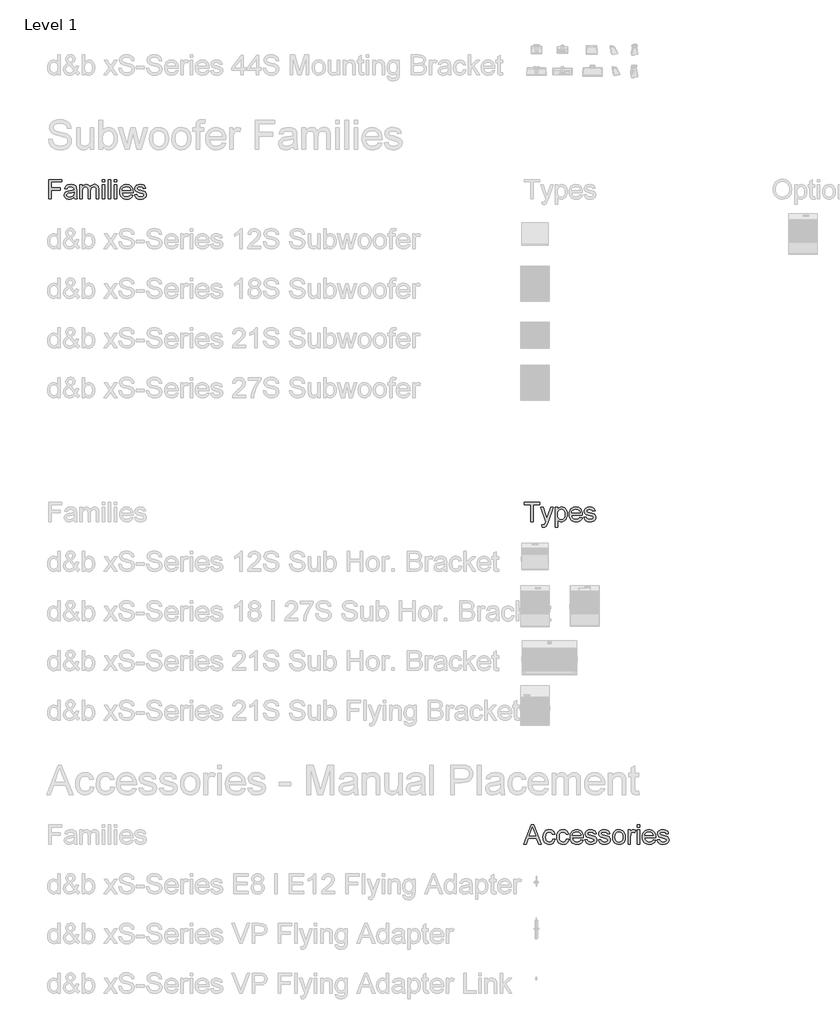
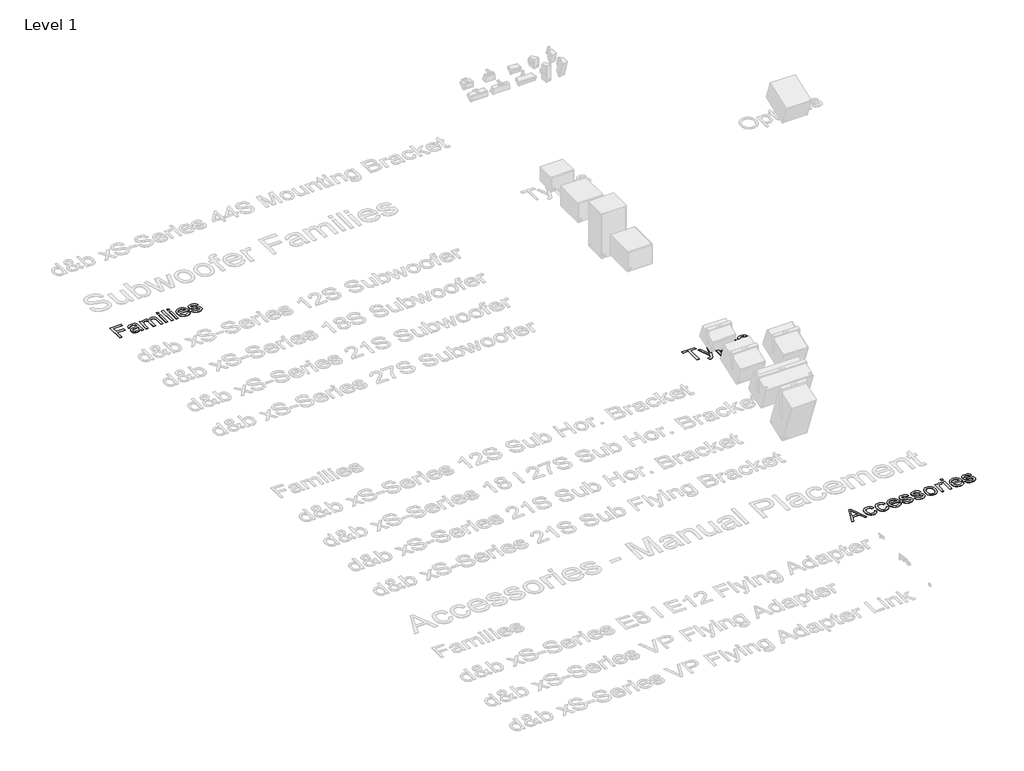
# One storey, part 20 of 55: 3 proxies.
"""IFC4 building model written with IfcOpenShell, lengths in millimetres."""

from ifc_helpers import new_model, si_unit, origin, origin_with_axes, place, context, project, spatial, polyline, outline, extrude, element, save

model = new_model("IFC4")

# Units and contexts
model_context = context("Model", 3, world=origin())
ifc_project = project(units=[si_unit("LENGTHUNIT", "METRE", prefix="MILLI")], contexts=[model_context])

# Site, building, storey
site = spatial("IfcSite", under=ifc_project)
building = spatial("IfcBuilding", under=site)
storey = spatial("IfcBuildingStorey", under=building, Name="Level 1", Elevation=0.0)

# Proxies
placement = place(None, origin())
element("IfcBuildingElementProxy", 1, Name="400mm Arial", ObjectType="400mm Arial", at=placement, inside=storey, context=model_context, shape_type="SweptSolid", body=[
    extrude(outline(polyline([(-11489.4242118, -26148.6945164), (-11333.0463709, -25756.9369407), (-11291.3456133, -25756.9369407), (-11135.0634163, -26148.6945164), (-11186.8067875, -26148.6945164), (-11231.5681512, -26026.270274), (-11393.0151209, -26026.270274), (-11437.7764845, -26148.6945164), (-11489.4242118, -26148.6945164)]), holes=[polyline([(-11375.0340603, -25977.300577), (-11249.4535679, -25977.300577), (-11284.8418254, -25880.9871301), (-11312.291636, -25805.9066376), (-11336.6808406, -25872.5704634), (-11375.0340603, -25977.300577)])]), origin_with_axes(), (0.0, 0.0, 1.0), 5.0),
    extrude(outline(polyline([(-10905.23103, -26044.6339104), (-10856.261333, -26050.7551225), (-10861.5875049, -26073.8621005), (-10869.9145054, -26094.3089814), (-10881.2423344, -26112.0957652), (-10895.5709921, -26127.222452), (-10912.296726, -26139.2945105), (-10930.8157838, -26147.9174094), (-10951.1281654, -26153.0911488), (-10973.2338709, -26154.8157285), (-11000.6986259, -26152.4096857), (-11025.3239514, -26145.1915571), (-11047.1098474, -26133.1613429), (-11066.0563141, -26116.3190429), (-11081.392222, -26094.9814778), (-11092.3464419, -26069.4654681), (-11098.9189739, -26039.7710138), (-11101.1098179, -26005.8981149), (-11097.3677487, -25962.320345), (-11086.1415413, -25924.5529445), (-11067.2518633, -25894.0544833), (-11040.5193822, -25872.2835316), (-11008.53844, -25859.2281339), (-10973.9033785, -25854.8763346), (-10952.1772598, -25856.3707712), (-10932.5254192, -25860.8540808), (-10914.9478564, -25868.3262636), (-10899.4445716, -25878.7873195), (-10886.2785856, -25891.9981386), (-10875.7129192, -25907.7196111), (-10867.7475723, -25925.9517371), (-10862.3825451, -25946.6945164), (-10911.3522421, -25952.8157285), (-10920.235173, -25931.4512636), (-10934.0676777, -25916.1362778), (-10952.0846048, -25906.9185931), (-10973.5208027, -25903.8460316), (-10990.1598593, -25905.3584014), (-11005.1669911, -25909.8955107), (-11018.5421983, -25917.4573597), (-11030.2854807, -25928.0439482), (-11039.8468858, -25941.900364), (-11046.6764608, -25959.2716945), (-11052.1401209, -26004.5590998), (-11046.7960158, -26050.4562352), (-11040.1158844, -26067.9441317), (-11030.7637004, -26081.7915808), (-11019.2535501, -26092.315403), (-11006.0995196, -26099.8324189), (-10991.3016088, -26104.3426284), (-10974.8598179, -26105.8460316), (-10949.5022184, -26102.092007), (-10928.7116171, -26090.8299331), (-10913.5879192, -26071.7728782), (-10905.23103, -26044.6339104)])), origin_with_axes(), (0.0, 0.0, 1.0), 5.0),
    extrude(outline(polyline([(-10629.7764845, -26044.6339104), (-10580.8067875, -26050.7551225), (-10586.1329594, -26073.8621005), (-10594.4599599, -26094.3089814), (-10605.787789, -26112.0957652), (-10620.1164466, -26127.222452), (-10636.8421805, -26139.2945105), (-10655.3612383, -26147.9174094), (-10675.6736199, -26153.0911488), (-10697.7793254, -26154.8157285), (-10725.2440804, -26152.4096857), (-10749.8694059, -26145.1915571), (-10771.655302, -26133.1613429), (-10790.6017686, -26116.3190429), (-10805.9376765, -26094.9814778), (-10816.8918964, -26069.4654681), (-10823.4644284, -26039.7710138), (-10825.6552724, -26005.8981149), (-10821.9132033, -25962.320345), (-10810.6869959, -25924.5529445), (-10791.7973179, -25894.0544833), (-10765.0648368, -25872.2835316), (-10733.0838946, -25859.2281339), (-10698.448833, -25854.8763346), (-10676.7227144, -25856.3707712), (-10657.0708737, -25860.8540808), (-10639.493311, -25868.3262636), (-10623.9900262, -25878.7873195), (-10610.8240402, -25891.9981386), (-10600.2583737, -25907.7196111), (-10592.2930269, -25925.9517371), (-10586.9279997, -25946.6945164), (-10635.8976966, -25952.8157285), (-10644.7806275, -25931.4512636), (-10658.6131322, -25916.1362778), (-10676.6300593, -25906.9185931), (-10698.0662572, -25903.8460316), (-10714.7053138, -25905.3584014), (-10729.7124457, -25909.8955107), (-10743.0876528, -25917.4573597), (-10754.8309353, -25928.0439482), (-10764.3923403, -25941.900364), (-10771.2219154, -25959.2716945), (-10776.6855754, -26004.5590998), (-10771.3414703, -26050.4562352), (-10764.6613389, -26067.9441317), (-10755.309155, -26081.7915808), (-10743.7990046, -26092.315403), (-10730.6449741, -26099.8324189), (-10715.8470634, -26104.3426284), (-10699.4052724, -26105.8460316), (-10674.047673, -26102.092007), (-10653.2570716, -26090.8299331), (-10638.1333737, -26071.7728782), (-10629.7764845, -26044.6339104)])), origin_with_axes(), (0.0, 0.0, 1.0), 5.0),
    extrude(outline(polyline([(-10336.5321663, -26062.9975467), (-10288.5189088, -26069.1187589), (-10295.8805032, -26088.3491684), (-10305.8185063, -26105.2960789), (-10318.332918, -26119.9594904), (-10333.4237383, -26132.3394028), (-10350.9355458, -26142.1727953), (-10370.7129192, -26149.1966471), (-10417.0643633, -26154.8157285), (-10447.4492473, -26152.3917525), (-10474.5224599, -26145.1198242), (-10498.2840011, -26132.9999437), (-10518.7338709, -26116.0321111), (-10535.1786507, -26094.6885683), (-10546.924922, -26069.4415571), (-10553.9726848, -26040.2910777), (-10556.3219391, -26007.2371301), (-10553.9487738, -25973.062355), (-10546.8292781, -25942.9404918), (-10534.9634518, -25916.8715406), (-10518.3512951, -25894.8555013), (-10497.955225, -25877.3646159), (-10474.7376588, -25864.8711263), (-10448.6985963, -25857.3750325), (-10419.8380375, -25854.8763346), (-10391.9070184, -25857.3690548), (-10366.6480518, -25864.8472153), (-10344.0611377, -25877.3108161), (-10324.1462762, -25894.7598573), (-10307.8897954, -25916.7280747), (-10296.2780233, -25942.7492039), (-10289.3109601, -25972.8232451), (-10286.9886057, -26006.9501982), (-10287.2755375, -26020.1490619), (-10507.3522421, -26020.1490619), (-10504.5158015, -26039.6903142), (-10498.875798, -26056.8046017), (-10490.4322314, -26071.4919241), (-10479.1851019, -26083.7522816), (-10450.7668964, -26100.3225941), (-10416.1079239, -26105.8460316), (-10390.0449504, -26103.2875562), (-10368.0946663, -26095.6121301), (-10350.2570716, -26082.3415335), (-10336.5321663, -26062.9975467)]), holes=[polyline([(-10507.3522421, -25971.1793649), (-10335.9583027, -25971.1793649), (-10342.5816455, -25945.3076793), (-10355.5653103, -25926.800577), (-10368.9195953, -25916.7579634), (-10384.1150262, -25909.5846679), (-10420.0293254, -25903.8460316), (-10453.03844, -25908.4249852), (-10480.3328292, -25922.161846), (-10499.3061957, -25943.5741329), (-10507.3522421, -25971.1793649)])]), origin_with_axes(), (0.0, 0.0, 1.0), 5.0),
    extrude(outline(polyline([(-10256.3825451, -26062.9975467), (-10207.4128482, -26056.8763346), (-10199.6896, -26077.8223573), (-10184.7452345, -26093.2210316), (-10162.4841076, -26102.6897816), (-10132.8105754, -26105.8460316), (-10103.495708, -26102.9528024), (-10082.8844391, -26094.2731149), (-10070.6898368, -26081.6959369), (-10066.6249694, -26067.1102361), (-10070.7137478, -26054.628702), (-10082.980083, -26045.1121301), (-10133.3844391, -26031.1481149), (-10207.1259163, -26007.1893081), (-10225.78844, -25995.1501272), (-10239.3101019, -25979.2134558), (-10247.5235252, -25960.3955107), (-10250.261333, -25939.7125089), (-10248.0615224, -25920.7391424), (-10241.4620906, -25903.224346), (-10231.0608122, -25887.8615382), (-10217.4554618, -25875.3441376), (-10186.3233595, -25860.8540808), (-10144.1922042, -25854.8763346), (-10112.3188614, -25857.2793886), (-10084.60603, -25864.4885505), (-10062.3209921, -25875.7984464), (-10046.73103, -25890.503702), (-10036.4014845, -25909.6922674), (-10029.8976966, -25934.4520922), (-10078.8673936, -25940.5733043), (-10085.0483832, -25925.1626746), (-10097.2788519, -25913.5538914), (-10115.6783548, -25906.2729965), (-10140.3664466, -25903.8460316), (-10168.4857648, -25906.1653971), (-10187.2319769, -25913.1234937), (-10197.7767213, -25923.1661073), (-10201.291636, -25934.739024), (-10195.4573557, -25948.989971), (-10177.1893633, -25959.7977361), (-10135.010386, -25970.2229255), (-10063.1339656, -25993.2731149), (-10044.1486436, -26004.2960789), (-10029.7542307, -26019.3839104), (-10020.680012, -26038.5844312), (-10017.6552724, -26061.9454634), (-10021.2060536, -26086.0955581), (-10031.8583974, -26108.8109937), (-10049.2058169, -26128.3104018), (-10072.8418254, -26142.8124142), (-10101.3915413, -26151.8149), (-10133.480083, -26154.8157285), (-10159.8359661, -26153.369114), (-10182.8562667, -26149.0292702), (-10202.540985, -26141.7961973), (-10218.8901209, -26131.6698952), (-10232.2444059, -26118.6981859), (-10242.9445716, -26102.9288914), (-10250.990618, -26084.3620117), (-10256.3825451, -26062.9975467)])), origin_with_axes(), (0.0, 0.0, 1.0), 5.0),
    extrude(outline(polyline([(-9980.9279997, -26062.9975467), (-9931.9583027, -26056.8763346), (-9924.2350546, -26077.8223573), (-9909.2906891, -26093.2210316), (-9887.0295622, -26102.6897816), (-9857.35603, -26105.8460316), (-9828.0411625, -26102.9528024), (-9807.4298936, -26094.2731149), (-9795.2352913, -26081.6959369), (-9791.1704239, -26067.1102361), (-9795.2592023, -26054.628702), (-9807.5255375, -26045.1121301), (-9857.9298936, -26031.1481149), (-9931.6713709, -26007.1893081), (-9950.3338946, -25995.1501272), (-9963.8555565, -25979.2134558), (-9972.0689798, -25960.3955107), (-9974.8067875, -25939.7125089), (-9972.6069769, -25920.7391424), (-9966.0075451, -25903.224346), (-9955.6062667, -25887.8615382), (-9942.0009163, -25875.3441376), (-9910.8688141, -25860.8540808), (-9868.7376588, -25854.8763346), (-9836.864316, -25857.2793886), (-9809.1514845, -25864.4885505), (-9786.8664466, -25875.7984464), (-9771.2764845, -25890.503702), (-9760.9469391, -25909.6922674), (-9754.4431512, -25934.4520922), (-9803.4128482, -25940.5733043), (-9809.5938377, -25925.1626746), (-9821.8243065, -25913.5538914), (-9840.2238093, -25906.2729965), (-9864.9119012, -25903.8460316), (-9893.0312194, -25906.1653971), (-9911.7774315, -25913.1234937), (-9922.3221758, -25923.1661073), (-9925.8370906, -25934.739024), (-9920.0028103, -25948.989971), (-9901.7348179, -25959.7977361), (-9859.5558406, -25970.2229255), (-9787.6794201, -25993.2731149), (-9768.6940982, -26004.2960789), (-9754.2996853, -26019.3839104), (-9745.2254665, -26038.5844312), (-9742.2007269, -26061.9454634), (-9745.7515082, -26086.0955581), (-9756.4038519, -26108.8109937), (-9773.7512714, -26128.3104018), (-9797.38728, -26142.8124142), (-9825.9369959, -26151.8149), (-9858.0255375, -26154.8157285), (-9884.3814206, -26153.369114), (-9907.4017213, -26149.0292702), (-9927.0864395, -26141.7961973), (-9943.4355754, -26131.6698952), (-9956.7898605, -26118.6981859), (-9967.4900262, -26102.9288914), (-9975.5360726, -26084.3620117), (-9980.9279997, -26062.9975467)])), origin_with_axes(), (0.0, 0.0, 1.0), 5.0),
    extrude(outline(polyline([(-9699.3522421, -26004.8460316), (-9696.7041005, -25967.5867394), (-9688.7596758, -25935.4802645), (-9675.5189679, -25908.5266069), (-9656.9819769, -25886.7257664), (-9638.3194533, -25872.79164), (-9617.7201398, -25862.8386926), (-9595.1840366, -25856.8669241), (-9570.7111436, -25854.8763346), (-9543.6947196, -25857.3003107), (-9519.2666597, -25864.572239), (-9497.4269639, -25876.6921194), (-9478.1756322, -25893.659952), (-9462.4631263, -25914.9018732), (-9451.2399078, -25939.8440193), (-9444.5059767, -25968.4863902), (-9442.261333, -26000.8289861), (-9446.2305565, -26050.3008138), (-9458.1382269, -26087.9606149), (-9477.6376351, -26116.1636215), (-9504.3820716, -26137.2650657), (-9536.147815, -26150.4280628), (-9570.7111436, -26154.8157285), (-9598.1220989, -26152.4007191), (-9622.7773131, -26145.1556907), (-9644.6767864, -26133.0806433), (-9663.8205186, -26116.175577), (-9679.3656476, -26094.7274236), (-9690.4693112, -26069.0231149), (-9697.1315094, -26039.0626509), (-9699.3522421, -26004.8460316)]), holes=[polyline([(-9650.3825451, -26004.7503876), (-9648.9658193, -26028.5029622), (-9644.7156417, -26049.0693981), (-9637.6320125, -26066.4496952), (-9627.7149315, -26080.6438535), (-9615.6518396, -26091.6698064), (-9602.1301777, -26099.5454871), (-9587.1499457, -26104.2708955), (-9570.7111436, -26105.8460316), (-9554.35603, -26104.2619288), (-9539.4355754, -26099.5096206), (-9525.94978, -26091.5891069), (-9513.8986436, -26080.5003876), (-9503.9815626, -26066.1657522), (-9496.8979334, -26048.5074899), (-9492.6477558, -26027.5256007), (-9491.23103, -26003.2200846), (-9492.6567224, -25980.2207061), (-9496.9337999, -25960.1922674), (-9504.0622622, -25943.1347686), (-9514.0421095, -25929.0482096), (-9526.138079, -25918.0222567), (-9539.6149078, -25910.1465761), (-9554.472596, -25905.4211677), (-9570.7111436, -25903.8460316), (-9587.1499457, -25905.41519), (-9602.1301777, -25910.1226651), (-9615.6518396, -25917.968457), (-9627.7149315, -25928.9525657), (-9637.6320125, -25943.1048798), (-9644.7156417, -25960.4552882), (-9648.9658193, -25981.0037908), (-9650.3825451, -26004.7503876)])]), origin_with_axes(), (0.0, 0.0, 1.0), 5.0),
    extrude(outline(polyline([(-9387.1704239, -26148.6945164), (-9387.1704239, -25860.9975467), (-9344.3219391, -25860.9975467), (-9344.3219391, -25903.5590998), (-9328.4928671, -25878.8829634), (-9313.9071663, -25864.3450846), (-9299.2736436, -25857.2435221), (-9283.3011057, -25854.8763346), (-9258.9119012, -25858.6542702), (-9234.1401209, -25869.988077), (-9250.4952345, -25913.8886452), (-9267.7111436, -25906.356685), (-9284.9270527, -25903.8460316), (-9299.5486199, -25906.261041), (-9312.6159732, -25913.5060695), (-9323.172673, -25925.0311642), (-9330.26228, -25940.2863725), (-9336.2161152, -25967.6405392), (-9338.2007269, -25997.4814482), (-9338.2007269, -26148.6945164), (-9387.1704239, -26148.6945164)])), origin_with_axes(), (0.0, 0.0, 1.0), 5.0),
    extrude(outline(polyline([(-9203.5340603, -25805.9066376), (-9203.5340603, -25756.9369407), (-9154.5643633, -25756.9369407), (-9154.5643633, -25805.9066376), (-9203.5340603, -25805.9066376)])), origin_with_axes(), (0.0, 0.0, 1.0), 5.0),
    extrude(outline(polyline([(-9203.5340603, -26148.6945164), (-9203.5340603, -25860.9975467), (-9154.5643633, -25860.9975467), (-9154.5643633, -26148.6945164), (-9203.5340603, -26148.6945164)])), origin_with_axes(), (0.0, 0.0, 1.0), 5.0),
    extrude(outline(polyline([(-8879.6836815, -26062.9975467), (-8831.6704239, -26069.1187589), (-8839.0320184, -26088.3491684), (-8848.9700214, -26105.2960789), (-8861.4844331, -26119.9594904), (-8876.5752535, -26132.3394028), (-8894.087061, -26142.1727953), (-8913.8644343, -26149.1966471), (-8960.2158785, -26154.8157285), (-8990.6007625, -26152.3917525), (-9017.673975, -26145.1198242), (-9041.4355162, -26132.9999437), (-9061.885386, -26116.0321111), (-9078.3301659, -26094.6885683), (-9090.0764372, -26069.4415571), (-9097.1242, -26040.2910777), (-9099.4734542, -26007.2371301), (-9097.100289, -25973.062355), (-9089.9807932, -25942.9404918), (-9078.114967, -25916.8715406), (-9061.5028103, -25894.8555013), (-9041.1067402, -25877.3646159), (-9017.8891739, -25864.8711263), (-8991.8501114, -25857.3750325), (-8962.9895527, -25854.8763346), (-8935.0585335, -25857.3690548), (-8909.7995669, -25864.8472153), (-8887.2126528, -25877.3108161), (-8867.2977913, -25894.7598573), (-8851.0413105, -25916.7280747), (-8839.4295385, -25942.7492039), (-8832.4624753, -25972.8232451), (-8830.1401209, -26006.9501982), (-8830.4270527, -26020.1490619), (-9050.5037572, -26020.1490619), (-9047.6673167, -26039.6903142), (-9042.0273131, -26056.8046017), (-9033.5837466, -26071.4919241), (-9022.3366171, -26083.7522816), (-8993.9184116, -26100.3225941), (-8959.2594391, -26105.8460316), (-8933.1964656, -26103.2875562), (-8911.2461815, -26095.6121301), (-8893.4085868, -26082.3415335), (-8879.6836815, -26062.9975467)]), holes=[polyline([(-9050.5037572, -25971.1793649), (-8879.1098179, -25971.1793649), (-8885.7331607, -25945.3076793), (-8898.7168254, -25926.800577), (-8912.0711105, -25916.7579634), (-8927.2665413, -25909.5846679), (-8963.1808406, -25903.8460316), (-8996.1899552, -25908.4249852), (-9023.4843444, -25922.161846), (-9042.4577108, -25943.5741329), (-9050.5037572, -25971.1793649)])]), origin_with_axes(), (0.0, 0.0, 1.0), 5.0),
    extrude(outline(polyline([(-8799.5340603, -26062.9975467), (-8750.5643633, -26056.8763346), (-8742.8411152, -26077.8223573), (-8727.8967497, -26093.2210316), (-8705.6356228, -26102.6897816), (-8675.9620906, -26105.8460316), (-8646.6472232, -26102.9528024), (-8626.0359542, -26094.2731149), (-8613.8413519, -26081.6959369), (-8609.7764845, -26067.1102361), (-8613.8652629, -26054.628702), (-8626.1315982, -26045.1121301), (-8676.5359542, -26031.1481149), (-8750.2774315, -26007.1893081), (-8768.9399552, -25995.1501272), (-8782.4616171, -25979.2134558), (-8790.6750404, -25960.3955107), (-8793.4128482, -25939.7125089), (-8791.2130375, -25920.7391424), (-8784.6136057, -25903.224346), (-8774.2123273, -25887.8615382), (-8760.6069769, -25875.3441376), (-8729.4748747, -25860.8540808), (-8687.3437194, -25854.8763346), (-8655.4703766, -25857.2793886), (-8627.7575451, -25864.4885505), (-8605.4725072, -25875.7984464), (-8589.8825451, -25890.503702), (-8579.5529997, -25909.6922674), (-8573.0492118, -25934.4520922), (-8622.0189088, -25940.5733043), (-8628.1998983, -25925.1626746), (-8640.4303671, -25913.5538914), (-8658.8298699, -25906.2729965), (-8683.5179618, -25903.8460316), (-8711.63728, -25906.1653971), (-8730.3834921, -25913.1234937), (-8740.9282364, -25923.1661073), (-8744.4431512, -25934.739024), (-8738.6088709, -25948.989971), (-8720.3408785, -25959.7977361), (-8678.1619012, -25970.2229255), (-8606.2854807, -25993.2731149), (-8587.3001588, -26004.2960789), (-8572.9057459, -26019.3839104), (-8563.8315271, -26038.5844312), (-8560.8067875, -26061.9454634), (-8564.3575688, -26086.0955581), (-8575.0099125, -26108.8109937), (-8592.3573321, -26128.3104018), (-8615.9933406, -26142.8124142), (-8644.5430565, -26151.8149), (-8676.6315982, -26154.8157285), (-8702.9874812, -26153.369114), (-8726.0077819, -26149.0292702), (-8745.6925001, -26141.7961973), (-8762.041636, -26131.6698952), (-8775.3959211, -26118.6981859), (-8786.0960868, -26102.9288914), (-8794.1421332, -26084.3620117), (-8799.5340603, -26062.9975467)])), origin_with_axes(), (0.0, 0.0, 1.0), 5.0),
])
element("IfcBuildingElementProxy", 2, Name="400mm Arial", ObjectType="400mm Arial", at=placement, inside=storey, context=model_context, shape_type="SweptSolid", body=[
    extrude(outline(polyline([(-21056.720891, -13148.6945164), (-21056.720891, -12756.9369407), (-20793.5087698, -12756.9369407), (-20793.5087698, -12805.9066376), (-21007.7511941, -12805.9066376), (-21007.7511941, -12922.2096679), (-20824.1148304, -12922.2096679), (-20824.1148304, -12971.1793649), (-21007.7511941, -12971.1793649), (-21007.7511941, -13148.6945164), (-21056.720891, -13148.6945164)])), origin_with_axes(), (0.0, 0.0, 1.0), 5.0),
    extrude(outline(polyline([(-20548.660285, -13111.9672437), (-20572.0571836, -13132.02856), (-20596.1475009, -13145.1556907), (-20621.4811893, -13152.4007191), (-20648.6082016, -13154.8157285), (-20670.4120309, -13153.3631362), (-20689.5318522, -13149.0053592), (-20705.9676654, -13141.7423976), (-20719.7194706, -13131.5742513), (-20730.5780466, -13119.1465169), (-20738.3341723, -13105.104791), (-20742.9878477, -13089.4490737), (-20744.5390729, -13072.1793649), (-20742.1957963, -13051.8789388), (-20735.1659668, -13033.4435695), (-20724.3223352, -13017.6623195), (-20710.5376524, -13005.3242513), (-20676.2493001, -12989.2560695), (-20633.879035, -12981.8914861), (-20583.8094327, -12974.144327), (-20548.9472168, -12965.0581528), (-20548.660285, -12954.1547437), (-20552.0317338, -12932.3001035), (-20562.1460804, -12918.0013346), (-20584.7658721, -12907.3848573), (-20616.2805501, -12903.8460316), (-20645.4519516, -12906.2012636), (-20665.8241107, -12913.2669596), (-20679.7163929, -12926.3343128), (-20689.4481638, -12946.6945164), (-20738.4178607, -12940.5733043), (-20729.9175056, -12913.7930013), (-20717.2327282, -12892.7513346), (-20699.1799346, -12876.6592418), (-20674.5755312, -12864.7276604), (-20644.4835568, -12857.339166), (-20609.9680501, -12854.8763346), (-20576.8632916, -12857.0522342), (-20550.6209857, -12863.5799331), (-20530.8346458, -12873.3953924), (-20517.097785, -12885.4345732), (-20507.9876997, -12900.3191613), (-20502.0816865, -12918.6708422), (-20499.690588, -12961.519327), (-20499.690588, -13022.4445164), (-20497.2038456, -13107.5198005), (-20487.4481638, -13148.6945164), (-20536.4178607, -13148.6945164), (-20544.2606638, -13131.6698952), (-20548.660285, -13111.9672437)]), holes=[polyline([(-20548.660285, -13014.0278498), (-20581.5618001, -13022.1814956), (-20627.6621789, -13029.0439482), (-20669.7933342, -13036.9823952), (-20680.7565208, -13042.4101888), (-20688.8743001, -13049.894327), (-20693.8956069, -13058.8609464), (-20695.5693759, -13068.7361831), (-20691.9229507, -13083.2979729), (-20680.9836751, -13095.2295543), (-20662.990659, -13103.1919123), (-20638.1830122, -13105.8460316), (-20611.8809289, -13102.9169359), (-20588.6394516, -13094.129649), (-20569.7975956, -13081.1818507), (-20556.6943759, -13065.771221), (-20550.8840066, -13049.894327), (-20548.9472168, -13027.896221), (-20548.660285, -13014.0278498)])]), origin_with_axes(), (0.0, 0.0, 1.0), 5.0),
    extrude(outline(polyline([(-20432.3572547, -13148.6945164), (-20432.3572547, -12860.9975467), (-20383.3875577, -12860.9975467), (-20383.3875577, -12908.3412967), (-20368.658391, -12886.594256), (-20349.720891, -12869.5576793), (-20327.2206543, -12858.5466708), (-20301.8032774, -12854.8763346), (-20274.5686657, -12858.6184037), (-20252.7379365, -12869.8446111), (-20236.4306448, -12887.8137162), (-20225.7663456, -12911.7844785), (-20207.9167954, -12886.8871656), (-20187.5565918, -12869.1033706), (-20164.6857348, -12858.4330936), (-20139.3042244, -12854.8763346), (-20119.7002057, -12856.3558268), (-20102.4932632, -12860.7943034), (-20087.683397, -12868.1917643), (-20075.2706069, -12878.5482096), (-20065.4581365, -12891.9831942), (-20058.4492291, -12908.6162731), (-20054.2438846, -12928.4474461), (-20052.8421032, -12951.4767134), (-20052.8421032, -13148.6945164), (-20101.8118001, -13148.6945164), (-20101.8118001, -12972.5183801), (-20106.3548872, -12931.630596), (-20112.7391202, -12920.3565666), (-20122.8056448, -12911.4975467), (-20135.7534431, -12905.7589104), (-20150.7814971, -12903.8460316), (-20177.3107348, -12908.7477835), (-20198.9382206, -12923.4530392), (-20207.3279874, -12934.7330463), (-20213.320678, -12948.96606), (-20218.1148304, -12986.2911073), (-20218.1148304, -13148.6945164), (-20267.0845274, -13148.6945164), (-20267.0845274, -12967.0666755), (-20269.9179791, -12939.3777551), (-20278.4183342, -12919.6272816), (-20293.3746552, -12907.7913441), (-20315.5760047, -12903.8460316), (-20334.4417717, -12906.4762399), (-20351.8250577, -12914.3668649), (-20366.1716486, -12927.3266187), (-20375.9273304, -12945.1642134), (-20381.5225009, -12969.9120827), (-20383.3875577, -13003.6026604), (-20383.3875577, -13148.6945164), (-20432.3572547, -13148.6945164)])), origin_with_axes(), (0.0, 0.0, 1.0), 5.0),
    extrude(outline(polyline([(-19979.3875577, -12805.9066376), (-19979.3875577, -12756.9369407), (-19930.4178607, -12756.9369407), (-19930.4178607, -12805.9066376), (-19979.3875577, -12805.9066376)])), origin_with_axes(), (0.0, 0.0, 1.0), 5.0),
    extrude(outline(polyline([(-19979.3875577, -13148.6945164), (-19979.3875577, -12860.9975467), (-19930.4178607, -12860.9975467), (-19930.4178607, -13148.6945164), (-19979.3875577, -13148.6945164)])), origin_with_axes(), (0.0, 0.0, 1.0), 5.0),
    extrude(outline(polyline([(-19856.9633153, -13148.6945164), (-19856.9633153, -12756.9369407), (-19807.9936183, -12756.9369407), (-19807.9936183, -13148.6945164), (-19856.9633153, -13148.6945164)])), origin_with_axes(), (0.0, 0.0, 1.0), 5.0),
    extrude(outline(polyline([(-19734.5390729, -12805.9066376), (-19734.5390729, -12756.9369407), (-19685.5693759, -12756.9369407), (-19685.5693759, -12805.9066376), (-19734.5390729, -12805.9066376)])), origin_with_axes(), (0.0, 0.0, 1.0), 5.0),
    extrude(outline(polyline([(-19734.5390729, -13148.6945164), (-19734.5390729, -12860.9975467), (-19685.5693759, -12860.9975467), (-19685.5693759, -13148.6945164), (-19734.5390729, -13148.6945164)])), origin_with_axes(), (0.0, 0.0, 1.0), 5.0),
    extrude(outline(polyline([(-19410.6886941, -13062.9975467), (-19362.6754365, -13069.1187589), (-19370.0370309, -13088.3491684), (-19379.975034, -13105.2960789), (-19392.4894457, -13119.9594904), (-19407.580266, -13132.3394028), (-19425.0920736, -13142.1727953), (-19444.8694469, -13149.1966471), (-19491.220891, -13154.8157285), (-19521.605775, -13152.3917525), (-19548.6789876, -13145.1198242), (-19572.4405288, -13132.9999437), (-19592.8903986, -13116.0321111), (-19609.3351784, -13094.6885683), (-19621.0814497, -13069.4415571), (-19628.1292125, -13040.2910777), (-19630.4784668, -13007.2371301), (-19628.1053015, -12973.062355), (-19620.9858058, -12942.9404918), (-19609.1199796, -12916.8715406), (-19592.5078229, -12894.8555013), (-19572.1117528, -12877.3646159), (-19548.8941865, -12864.8711263), (-19522.855124, -12857.3750325), (-19493.9945653, -12854.8763346), (-19466.0635461, -12857.3690548), (-19440.8045795, -12864.8472153), (-19418.2176654, -12877.3108161), (-19398.3028039, -12894.7598573), (-19382.0463231, -12916.7280747), (-19370.4345511, -12942.7492039), (-19363.4674879, -12972.8232451), (-19361.1451335, -13006.9501982), (-19361.4320653, -13020.1490619), (-19581.5087698, -13020.1490619), (-19578.6723292, -13039.6903142), (-19573.0323257, -13056.8046017), (-19564.5887592, -13071.4919241), (-19553.3416297, -13083.7522816), (-19524.9234242, -13100.3225941), (-19490.2644516, -13105.8460316), (-19464.2014782, -13103.2875562), (-19442.2511941, -13095.6121301), (-19424.4135994, -13082.3415335), (-19410.6886941, -13062.9975467)]), holes=[polyline([(-19581.5087698, -12971.1793649), (-19410.1148304, -12971.1793649), (-19416.7381732, -12945.3076793), (-19429.721838, -12926.800577), (-19443.076123, -12916.7579634), (-19458.2715539, -12909.5846679), (-19494.1858532, -12903.8460316), (-19527.1949677, -12908.4249852), (-19554.4893569, -12922.161846), (-19573.4627234, -12943.5741329), (-19581.5087698, -12971.1793649)])]), origin_with_axes(), (0.0, 0.0, 1.0), 5.0),
    extrude(outline(polyline([(-19330.5390729, -13062.9975467), (-19281.5693759, -13056.8763346), (-19273.8461278, -13077.8223573), (-19258.9017622, -13093.2210316), (-19236.6406354, -13102.6897816), (-19206.9671032, -13105.8460316), (-19177.6522357, -13102.9528024), (-19157.0409668, -13094.2731149), (-19144.8463645, -13081.6959369), (-19140.7814971, -13067.1102361), (-19144.8702755, -13054.628702), (-19157.1366107, -13045.1121301), (-19207.5409668, -13031.1481149), (-19281.2824441, -13007.1893081), (-19299.9449677, -12995.1501272), (-19313.4666297, -12979.2134558), (-19321.680053, -12960.3955107), (-19324.4178607, -12939.7125089), (-19322.2180501, -12920.7391424), (-19315.6186183, -12903.224346), (-19305.2173399, -12887.8615382), (-19291.6119895, -12875.3441376), (-19260.4798872, -12860.8540808), (-19218.3487319, -12854.8763346), (-19186.4753891, -12857.2793886), (-19158.7625577, -12864.4885505), (-19136.4775198, -12875.7984464), (-19120.8875577, -12890.503702), (-19110.5580122, -12909.6922674), (-19104.0542244, -12934.4520922), (-19153.0239213, -12940.5733043), (-19159.2049109, -12925.1626746), (-19171.4353797, -12913.5538914), (-19189.8348825, -12906.2729965), (-19214.5229744, -12903.8460316), (-19242.6422925, -12906.1653971), (-19261.3885047, -12913.1234937), (-19271.933249, -12923.1661073), (-19275.4481638, -12934.739024), (-19269.6138835, -12948.989971), (-19251.345891, -12959.7977361), (-19209.1669138, -12970.2229255), (-19137.2904933, -12993.2731149), (-19118.3051713, -13004.2960789), (-19103.9107585, -13019.3839104), (-19094.8365397, -13038.5844312), (-19091.8118001, -13061.9454634), (-19095.3625814, -13086.0955581), (-19106.0149251, -13108.8109937), (-19123.3623446, -13128.3104018), (-19146.9983532, -13142.8124142), (-19175.5480691, -13151.8149), (-19207.6366107, -13154.8157285), (-19233.9924938, -13153.369114), (-19257.0127944, -13149.0292702), (-19276.6975127, -13141.7961973), (-19293.0466486, -13131.6698952), (-19306.4009336, -13118.6981859), (-19317.1010994, -13102.9288914), (-19325.1471458, -13084.3620117), (-19330.5390729, -13062.9975467)])), origin_with_axes(), (0.0, 0.0, 1.0), 5.0),
])
element("IfcBuildingElementProxy", 3, Name="400mm Arial", ObjectType="400mm Arial", at=placement, inside=storey, context=model_context, shape_type="SweptSolid", body=[
    extrude(outline(polyline([(-11345.9583027, -19648.6945164), (-11345.9583027, -19305.9066376), (-11474.5037572, -19305.9066376), (-11474.5037572, -19256.9369407), (-11168.4431512, -19256.9369407), (-11168.4431512, -19305.9066376), (-11296.9886057, -19305.9066376), (-11296.9886057, -19648.6945164), (-11345.9583027, -19648.6945164)])), origin_with_axes(), (0.0, 0.0, 1.0), 5.0),
    extrude(outline(polyline([(-11119.4734542, -19758.8763346), (-11125.5946663, -19711.7238725), (-11100.7272421, -19716.0278498), (-11087.6479334, -19714.6768791), (-11077.4857648, -19710.6239672), (-11063.2348179, -19695.5600467), (-11049.8446663, -19659.5022816), (-11046.0189088, -19647.6424331), (-11150.0795148, -19360.9975467), (-11098.5274315, -19360.9975467), (-11043.2452345, -19520.8185695), (-11024.0208027, -19584.708721), (-11004.7963709, -19528.1831528), (-10948.0795148, -19360.9975467), (-10896.9100072, -19360.9975467), (-10997.0492118, -19655.5808801), (-11023.0643633, -19719.4710316), (-11036.3827819, -19739.8671017), (-11051.4706133, -19753.9984937), (-11068.9734542, -19762.2477835), (-11089.5369012, -19764.9975467), (-11119.4734542, -19758.8763346)])), origin_with_axes(), (0.0, 0.0, 1.0), 5.0),
    extrude(outline(polyline([(-10856.261333, -19758.8763346), (-10856.261333, -19360.9975467), (-10807.291636, -19360.9975467), (-10807.291636, -19409.0108043), (-10791.3190982, -19385.3269738), (-10773.4336815, -19368.409952), (-10752.5833027, -19358.259739), (-10727.7158785, -19354.8763346), (-10694.5991644, -19359.6107096), (-10665.6429618, -19373.8138346), (-10642.0667307, -19396.6249142), (-10625.0899315, -19427.1831528), (-10614.832119, -19463.2648289), (-10611.4128482, -19502.646221), (-10615.2744722, -19544.5263109), (-10626.8593444, -19581.9828687), (-10645.7968444, -19613.114971), (-10671.7163519, -19636.0216945), (-10701.9039703, -19650.11722), (-10733.6458027, -19654.8157285), (-10756.1579949, -19651.671434), (-10776.2551777, -19642.2385505), (-10793.4591313, -19627.999559), (-10807.291636, -19610.4369407), (-10807.291636, -19758.8763346), (-10856.261333, -19758.8763346)]), holes=[polyline([(-10807.291636, -19507.1414861), (-10801.9953529, -19551.0420543), (-10795.374999, -19568.0427645), (-10786.1065035, -19581.7437589), (-10762.6617828, -19599.8204634), (-10749.2447314, -19604.3396395), (-10734.697886, -19605.8460316), (-10719.9418195, -19604.2858398), (-10706.2796805, -19599.6052645), (-10682.2371853, -19580.8829634), (-10672.6757802, -19566.6858161), (-10665.8462052, -19549.0574426), (-10660.3825451, -19503.5070164), (-10665.7146947, -19459.8455581), (-10672.3798818, -19442.7133375), (-10681.7111436, -19428.7134558), (-10705.1199978, -19410.0628876), (-10718.3846166, -19405.4002456), (-10732.6893633, -19403.8460316), (-10746.9492769, -19405.4988784), (-10760.3663283, -19410.4574189), (-10784.6718444, -19430.2915808), (-10794.5680032, -19445.0117809), (-10801.6366881, -19462.7268318), (-10805.8778991, -19483.4367335), (-10807.291636, -19507.1414861)])]), origin_with_axes(), (0.0, 0.0, 1.0), 5.0),
    extrude(outline(polyline([(-10354.8958027, -19562.9975467), (-10306.8825451, -19569.1187589), (-10314.2441396, -19588.3491684), (-10324.1821427, -19605.2960789), (-10336.6965544, -19619.9594904), (-10351.7873747, -19632.3394028), (-10369.2991822, -19642.1727953), (-10389.0765555, -19649.1966471), (-10435.4279997, -19654.8157285), (-10465.8128837, -19652.3917525), (-10492.8860963, -19645.1198242), (-10516.6476375, -19632.9999437), (-10537.0975072, -19616.0321111), (-10553.5422871, -19594.6885683), (-10565.2885584, -19569.4415571), (-10572.3363212, -19540.2910777), (-10574.6855754, -19507.2371301), (-10572.3124102, -19473.062355), (-10565.1929144, -19442.9404918), (-10553.3270882, -19416.8715406), (-10536.7149315, -19394.8555013), (-10516.3188614, -19377.3646159), (-10493.1012951, -19364.8711263), (-10467.0622326, -19357.3750325), (-10438.2016739, -19354.8763346), (-10410.2706547, -19357.3690548), (-10385.0116881, -19364.8472153), (-10362.4247741, -19377.3108161), (-10342.5099125, -19394.7598573), (-10326.2534317, -19416.7280747), (-10314.6416597, -19442.7492039), (-10307.6745965, -19472.8232451), (-10305.3522421, -19506.9501982), (-10305.6391739, -19520.1490619), (-10525.7158785, -19520.1490619), (-10522.8794379, -19539.6903142), (-10517.2394343, -19556.8046017), (-10508.7958678, -19571.4919241), (-10497.5487383, -19583.7522816), (-10469.1305328, -19600.3225941), (-10434.4715603, -19605.8460316), (-10408.4085868, -19603.2875562), (-10386.4583027, -19595.6121301), (-10368.620708, -19582.3415335), (-10354.8958027, -19562.9975467)]), holes=[polyline([(-10525.7158785, -19471.1793649), (-10354.3219391, -19471.1793649), (-10360.9452819, -19445.3076793), (-10373.9289466, -19426.800577), (-10387.2832317, -19416.7579634), (-10402.4786625, -19409.5846679), (-10438.3929618, -19403.8460316), (-10471.4020764, -19408.4249852), (-10498.6964656, -19422.161846), (-10517.6698321, -19443.5741329), (-10525.7158785, -19471.1793649)])]), origin_with_axes(), (0.0, 0.0, 1.0), 5.0),
    extrude(outline(polyline([(-10274.7461815, -19562.9975467), (-10225.7764845, -19556.8763346), (-10218.0532364, -19577.8223573), (-10203.1088709, -19593.2210316), (-10180.847744, -19602.6897816), (-10151.1742118, -19605.8460316), (-10121.8593444, -19602.9528024), (-10101.2480754, -19594.2731149), (-10089.0534732, -19581.6959369), (-10084.9886057, -19567.1102361), (-10089.0773841, -19554.628702), (-10101.3437194, -19545.1121301), (-10151.7480754, -19531.1481149), (-10225.4895527, -19507.1893081), (-10244.1520764, -19495.1501272), (-10257.6737383, -19479.2134558), (-10265.8871616, -19460.3955107), (-10268.6249694, -19439.7125089), (-10266.4251588, -19420.7391424), (-10259.8257269, -19403.224346), (-10249.4244485, -19387.8615382), (-10235.8190982, -19375.3441376), (-10204.6869959, -19360.8540808), (-10162.5558406, -19354.8763346), (-10130.6824978, -19357.2793886), (-10102.9696663, -19364.4885505), (-10080.6846285, -19375.7984464), (-10065.0946663, -19390.503702), (-10054.7651209, -19409.6922674), (-10048.261333, -19434.4520922), (-10097.23103, -19440.5733043), (-10103.4120196, -19425.1626746), (-10115.6424883, -19413.5538914), (-10134.0419911, -19406.2729965), (-10158.730083, -19403.8460316), (-10186.8494012, -19406.1653971), (-10205.5956133, -19413.1234937), (-10216.1403576, -19423.1661073), (-10219.6552724, -19434.739024), (-10213.8209921, -19448.989971), (-10195.5529997, -19459.7977361), (-10153.3740224, -19470.2229255), (-10081.4976019, -19493.2731149), (-10062.51228, -19504.2960789), (-10048.1178671, -19519.3839104), (-10039.0436483, -19538.5844312), (-10036.0189088, -19561.9454634), (-10039.56969, -19586.0955581), (-10050.2220338, -19608.8109937), (-10067.5694533, -19628.3104018), (-10091.2054618, -19642.8124142), (-10119.7551777, -19651.8149), (-10151.8437194, -19654.8157285), (-10178.1996024, -19653.369114), (-10201.2199031, -19649.0292702), (-10220.9046214, -19641.7961973), (-10237.2537572, -19631.6698952), (-10250.6080423, -19618.6981859), (-10261.308208, -19602.9288914), (-10269.3542544, -19584.3620117), (-10274.7461815, -19562.9975467)])), origin_with_axes(), (0.0, 0.0, 1.0), 5.0),
])

save(model, "model.ifc")
